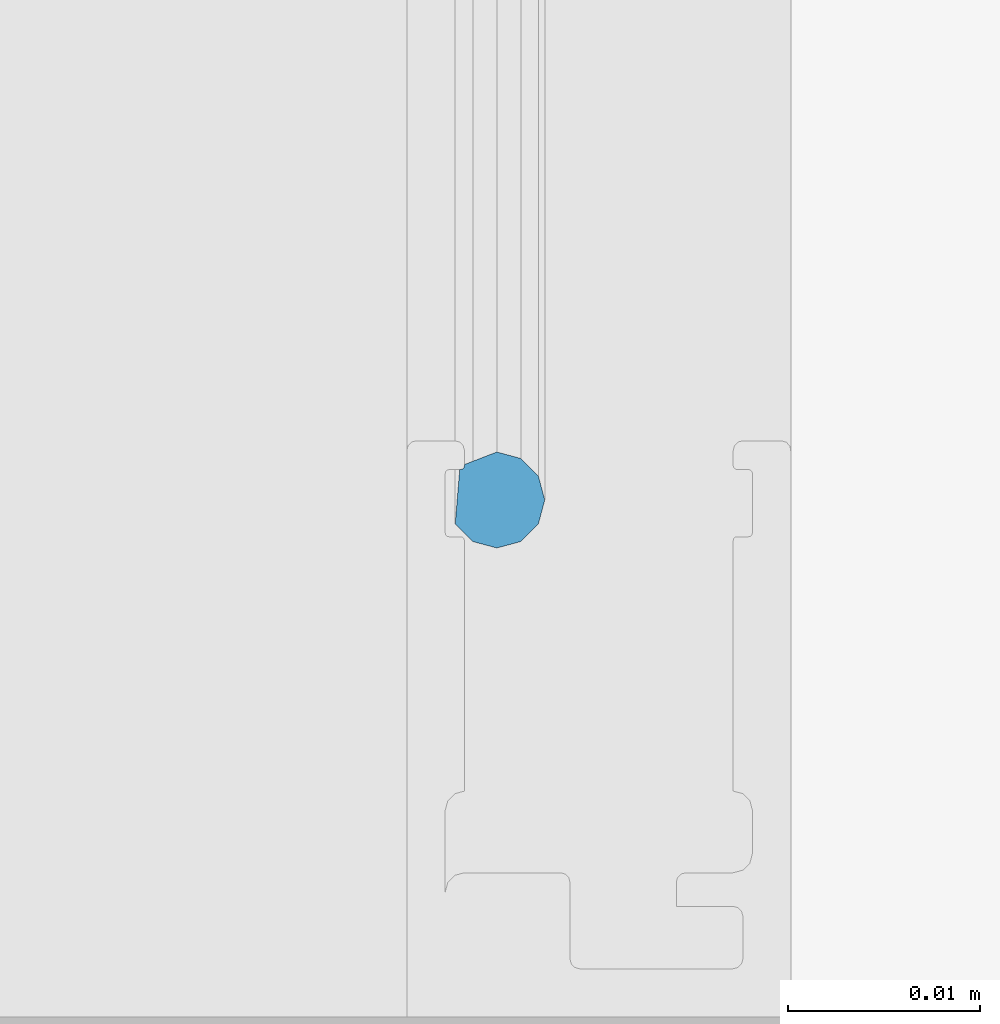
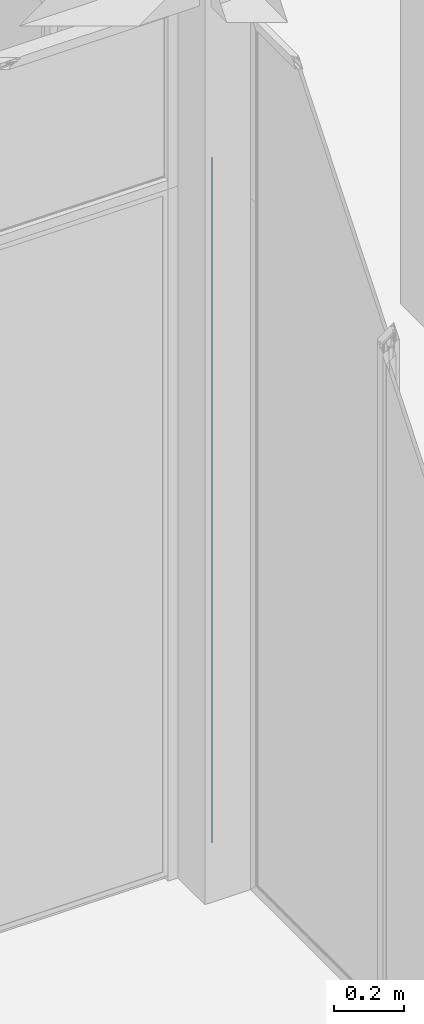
# One storey, part 91 of 387: 1 building element part, 2 elements without a shape of their own.
"""IFC2X3 building model written with IfcOpenShell, lengths in millimetres."""

import ifcopenshell
import ifcopenshell.guid

model = None  # the IFC model being written
_history = None  # IfcOwnerHistory: only IFC2X3 demands one
_inside = {}  # id of a spatial element -> (the spatial element, [elements in it])
_under = {}  # id of a project, library or spatial element -> (it, [spatial elements below it])
_declared = {}  # id of a project -> (the project, [libraries it declares])
_typed = {}  # id of a type object -> (the type object, [elements of that type])
_made_of = {}  # id of a material, layer set ... -> (it, [elements and type objects made of it])


def new_model(schema):
    """Start an empty IFC model of exactly this schema.

    Asked for "IFC4X3", IfcOpenShell would pick the latest addendum, in which some entities
    have other attributes; the version numbers below select the first issue.
    IFC2X3 requires an IfcOwnerHistory on every rooted entity: one is made here for all.
    """
    global model, _history
    if schema == "IFC4X3":
        model = ifcopenshell.file(schema_version=(4, 3, 0, 0))
    else:
        model = ifcopenshell.file(schema=schema)
    _inside.clear()
    _under.clear()
    _declared.clear()
    _typed.clear()
    _made_of.clear()
    _history = None
    if model.schema == "IFC2X3":
        org = make("IfcOrganization", Name="unknown")
        user = make(
            "IfcPersonAndOrganization",
            ThePerson=make("IfcPerson", FamilyName="unknown"),
            TheOrganization=org,
        )
        app = make(
            "IfcApplication",
            ApplicationDeveloper=org,
            Version="unknown",
            ApplicationFullName="unknown",
            ApplicationIdentifier="unknown",
        )
        _history = make(
            "IfcOwnerHistory",
            OwningUser=user,
            OwningApplication=app,
            ChangeAction="ADDED",
            CreationDate=0,
        )
    return model


def make(cls, **values):
    """One entity of the class cls with the attributes given. An attribute that is None is left unset."""
    return model.create_entity(
        cls, **{name: value for name, value in values.items() if value is not None}
    )


def entity(cls, *values):
    """Any entity or typed value of the class cls, its attributes in the order of the schema. None: left unset."""
    e = model.create_entity(cls)
    for i, value in enumerate(values):
        if value is not None:
            e[i] = value
    return e


def rooted(cls, **values):
    """An entity with a GlobalId (a new one), such as an element, a storey or a relation."""
    return make(cls, GlobalId=ifcopenshell.guid.new(), OwnerHistory=_history, **values)


def si_unit(unit_type, name, prefix=None):
    """IfcSIUnit, for example si_unit("LENGTHUNIT", "METRE", prefix="MILLI")."""
    return make("IfcSIUnit", UnitType=unit_type, Prefix=prefix, Name=name)


def converted_unit(unit_type, name, factor, base, dimensions=None, offset=None):
    """IfcConversionBasedUnit, such as the inch: factor (a typed value) times the base unit."""
    return make(
        "IfcConversionBasedUnit"
        if offset is None
        else "IfcConversionBasedUnitWithOffset",
        ConversionOffset=offset,
        Dimensions=None
        if dimensions is None
        else entity("IfcDimensionalExponents", *dimensions),
        UnitType=unit_type,
        Name=name,
        ConversionFactor=make(
            "IfcMeasureWithUnit", ValueComponent=factor, UnitComponent=base
        ),
    )


def derived_unit(unit_type, elements):
    """IfcDerivedUnit: a product of units, each with its exponent."""
    return make(
        "IfcDerivedUnit",
        Elements=[
            make("IfcDerivedUnitElement", Unit=unit, Exponent=power)
            for unit, power in elements
        ],
        UnitType=unit_type,
    )


def money_unit(currency):
    """IfcMonetaryUnit."""
    return make("IfcMonetaryUnit", Currency=currency)


def assignment(units):
    """IfcUnitAssignment: the units of a project."""
    return None if units is None else make("IfcUnitAssignment", Units=units)


def point(xyz):
    """IfcCartesianPoint."""
    return None if xyz is None else make("IfcCartesianPoint", Coordinates=xyz)


def direction(xyz):
    """IfcDirection."""
    return None if xyz is None else make("IfcDirection", DirectionRatios=xyz)


def frame(location, z_axis=None, x_axis=None):
    """IfcAxis2Placement3D, a coordinate frame: its origin and axes. An axis left out is left unset."""
    return make(
        "IfcAxis2Placement3D",
        Location=point(location),
        Axis=direction(z_axis),
        RefDirection=direction(x_axis),
    )


def origin_with_axes():
    """The frame at (0, 0, 0) with the z axis (0, 0, 1) and the x axis (1, 0, 0) written out."""
    return frame((0.0, 0.0, 0.0), z_axis=(0.0, 0.0, 1.0), x_axis=(1.0, 0.0, 0.0))


def place(relative_to, where):
    """IfcLocalPlacement: puts the frame where relative to a parent placement (None: the world)."""
    return make(
        "IfcLocalPlacement", PlacementRelTo=relative_to, RelativePlacement=where
    )


def context(
    kind, dimensions, precision=None, world=None, true_north=None, identifier=None
):
    """IfcGeometricRepresentationContext, for example the 3D "Model" context."""
    return make(
        "IfcGeometricRepresentationContext",
        ContextIdentifier=identifier,
        ContextType=kind,
        CoordinateSpaceDimension=dimensions,
        Precision=precision,
        WorldCoordinateSystem=world,
        TrueNorth=true_north,
    )


def subcontext(parent, identifier, kind, view, scale=None):
    """IfcGeometricRepresentationSubContext, for example "Body" below "Model"."""
    return make(
        "IfcGeometricRepresentationSubContext",
        ContextIdentifier=identifier,
        ContextType=kind,
        ParentContext=parent,
        TargetScale=scale,
        TargetView=view,
    )


def project(units=None, contexts=None):
    """IfcProject with its units and contexts."""
    return rooted(
        "IfcProject",
        Name="project",
        RepresentationContexts=contexts,
        UnitsInContext=assignment(units),
    )


def spatial(cls, under=None, at=None, **own):
    """A site, building, storey or space (cls), placed at a placement, below another one or the project."""
    s = rooted(cls, ObjectPlacement=at, **own)
    if under is not None:
        _under.setdefault(under.id(), (under, []))[1].append(s)
    return s


def faces_of(points, faces, orient=None, outer=None):
    """IfcFace entities. A face is a list of loops; a loop is a list of indices into points, from 0.

    orient and outer hold one flag for each loop. By default every Orientation is true, the
    first loop of a face is its IfcFaceOuterBound and the others are IfcFaceBound.
    """
    made = []
    for i, loops in enumerate(faces):
        bounds = []
        for j, loop in enumerate(loops):
            is_outer = j == 0 if outer is None else outer[i][j]
            bounds.append(
                make(
                    "IfcFaceOuterBound" if is_outer else "IfcFaceBound",
                    Bound=make("IfcPolyLoop", Polygon=[points[k] for k in loop]),
                    Orientation=True if orient is None else orient[i][j],
                )
            )
        made.append(make("IfcFace", Bounds=bounds))
    return made


def faceted_brep(points, faces, orient=None, outer=None, voids=None):
    """IfcFacetedBrep: a solid bounded by flat faces; with voids (closed shells), ...WithVoids."""
    shared = [point(p) for p in points]
    hull = make("IfcClosedShell", CfsFaces=faces_of(shared, faces, orient, outer))
    if voids is None:
        return make("IfcFacetedBrep", Outer=hull)
    return make(
        "IfcFacetedBrepWithVoids",
        Outer=hull,
        Voids=[
            make(cls, CfsFaces=faces_of(shared, fs, o, b)) for cls, fs, o, b in voids
        ],
    )


def shape(context_of_items, identifier, shape_type, items):
    """IfcShapeRepresentation: the items that make up one representation, for example the "Body"."""
    return make(
        "IfcShapeRepresentation",
        ContextOfItems=context_of_items,
        RepresentationIdentifier=identifier,
        RepresentationType=shape_type,
        Items=items,
    )


def source(mapping_origin, context_of_items, identifier, shape_type, items):
    """IfcRepresentationMap: a shape defined once, which mapped items show again and again."""
    return make(
        "IfcRepresentationMap",
        MappingOrigin=mapping_origin,
        MappedRepresentation=shape(context_of_items, identifier, shape_type, items),
    )


def transform(
    local_origin,
    x_axis=None,
    y_axis=None,
    z_axis=None,
    scale=None,
    scale2=None,
    scale3=None,
    uniform=True,
):
    """IfcCartesianTransformationOperator3D, or its non-uniform kind. x_axis, y_axis, z_axis: its Axis1, 2, 3."""
    if uniform:
        return make(
            "IfcCartesianTransformationOperator3D",
            Axis1=direction(x_axis),
            Axis2=direction(y_axis),
            LocalOrigin=point(local_origin),
            Scale=scale,
            Axis3=direction(z_axis),
        )
    return make(
        "IfcCartesianTransformationOperator3DnonUniform",
        Axis1=direction(x_axis),
        Axis2=direction(y_axis),
        LocalOrigin=point(local_origin),
        Scale=scale,
        Axis3=direction(z_axis),
        Scale2=scale2,
        Scale3=scale3,
    )


def mapped(mapping_source, mapping_target):
    """IfcMappedItem: shows the shape of a source again, moved by a transform."""
    return make(
        "IfcMappedItem", MappingSource=mapping_source, MappingTarget=mapping_target
    )


def material(Name=None, Category=None):
    """IfcMaterial."""
    return make("IfcMaterial", Name=Name, Category=Category)


def made_of(thing, what):
    """Note that an element or type object is made of a material, layer set ...; save() writes the relation."""
    if what is not None:
        _made_of.setdefault(what.id(), (what, []))[1].append(thing)
    return thing


def type_object(cls, material=None, **own):
    """A type object (cls), such as IfcWallType, which elements share."""
    return made_of(rooted(cls, **own), material)


def element(
    cls,
    number,
    at=None,
    inside=None,
    cuts=None,
    type_object=None,
    material=None,
    context=None,
    identifier="Body",
    shape_type=None,
    held_by="IfcProductDefinitionShape",
    body=None,
    shapes=None,
    **own,
):
    """One element of the class cls, such as IfcWall. Its Tag is "e" and its number.

    at: its placement. inside: the storey or other place that contains it. cuts: it is an
    opening in that element (IfcRelVoidsElement). A single representation is given by context,
    identifier, shape_type and body (its items); several are given by shapes. held_by: the class
    of the entity that holds the representations. save() writes the other relations.
    """
    e = rooted(cls, Tag="e%d" % number, ObjectPlacement=at, **own)
    if body is not None:
        shapes = [shape(context, identifier, shape_type, body)]
    if shapes is not None:
        e.Representation = make(held_by, Representations=shapes)
    if inside is not None:
        _inside.setdefault(inside.id(), (inside, []))[1].append(e)
    if cuts is not None:
        rooted(
            "IfcRelVoidsElement", RelatingBuildingElement=cuts, RelatedOpeningElement=e
        )
    if type_object is not None:
        _typed.setdefault(type_object.id(), (type_object, []))[1].append(e)
    return made_of(e, material)


def aggregate(whole, parts):
    """IfcRelAggregates: a whole, such as a stair, and the parts it consists of."""
    return rooted("IfcRelAggregates", RelatingObject=whole, RelatedObjects=parts)


def save(model, path):
    """Write the relations noted so far, then the file.

    IfcRelAggregates (storeys below a building ...), IfcRelContainedInSpatialStructure (elements
    in a storey), IfcRelDefinesByType, IfcRelAssociatesMaterial and IfcRelDeclares: one each for
    every whole, place, type object, material and project.
    """
    for whole, parts in _under.values():
        aggregate(whole, parts)
    for where, things in _inside.values():
        rooted(
            "IfcRelContainedInSpatialStructure",
            RelatedElements=things,
            RelatingStructure=where,
        )
    for kind, things in _typed.values():
        rooted("IfcRelDefinesByType", RelatedObjects=things, RelatingType=kind)
    for what, things in _made_of.values():
        rooted("IfcRelAssociatesMaterial", RelatedObjects=things, RelatingMaterial=what)
    for by, libraries in _declared.values():
        rooted("IfcRelDeclares", RelatingContext=by, RelatedDefinitions=libraries)
    model.write(path)


model = new_model("IFC2X3")

# Units and contexts
model_context = context("Model", 3, precision=0.01, world=origin_with_axes(), true_north=direction((0.0, 1.0)))
body_context = subcontext(model_context, "Body", "Model", "MODEL_VIEW")
ifc_project = project(units=[si_unit("LENGTHUNIT", "METRE", prefix="MILLI"), si_unit("AREAUNIT", "SQUARE_METRE"), si_unit("VOLUMEUNIT", "CUBIC_METRE"), converted_unit("PLANEANGLEUNIT", "DEGREE", entity("IfcPlaneAngleMeasure", 0.0174532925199), si_unit("PLANEANGLEUNIT", "RADIAN"), dimensions=[0, 0, 0, 0, 0, 0, 0]), si_unit("SOLIDANGLEUNIT", "STERADIAN"), money_unit("EUR"), converted_unit("TIMEUNIT", "Year", entity("IfcTimeMeasure", 31556926.0), si_unit("TIMEUNIT", "SECOND"), dimensions=[0, 0, 1, 0, 0, 0, 0]), si_unit("MASSUNIT", "GRAM", prefix="KILO"), si_unit("THERMODYNAMICTEMPERATUREUNIT", "DEGREE_CELSIUS"), si_unit("LUMINOUSINTENSITYUNIT", "LUMEN"), si_unit("ENERGYUNIT", "JOULE", prefix="MEGA"), derived_unit("THERMALCONDUCTANCEUNIT", [(si_unit("POWERUNIT", "WATT"), 1), (si_unit("LENGTHUNIT", "METRE"), -1), (si_unit("THERMODYNAMICTEMPERATUREUNIT", "KELVIN"), -1)]), derived_unit("SPECIFICHEATCAPACITYUNIT", [(si_unit("ENERGYUNIT", "JOULE"), 1), (si_unit("MASSUNIT", "GRAM", prefix="KILO"), -1), (si_unit("THERMODYNAMICTEMPERATUREUNIT", "KELVIN"), -1)]), derived_unit("MASSDENSITYUNIT", [(si_unit("MASSUNIT", "GRAM", prefix="KILO"), 1), (si_unit("VOLUMEUNIT", "CUBIC_METRE"), -1)])], contexts=[model_context])

# Site, building, storey
site_placement = place(None, origin_with_axes())
site = spatial("IfcSite", under=ifc_project, at=site_placement, Name="Puškini 31, Narva", CompositionType="ELEMENT")
building_placement = place(site_placement, origin_with_axes())
building = spatial("IfcBuilding", under=site, at=building_placement, Name="Narva Riigigümnaasium", CompositionType="ELEMENT")
storey_placement = place(building_placement, frame((0.0, 0.0, 2640.0), z_axis=(0.0, 0.0, 1.0), x_axis=(1.0, 0.0, 0.0)))
storey = spatial("IfcBuildingStorey", under=building, at=storey_placement, Name="2.korrus +2.64", CompositionType="ELEMENT", Elevation=2640.0)

# Curtain wall, member, building element part
curtain_wall_type = type_object("IfcCurtainWallType", Name="Curtain Wall Type", PredefinedType="NOTDEFINED")
curtain_wall_placement = place(storey_placement, frame((28390.0000001, 183059.973479, -0.000112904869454), z_axis=(0.0, 0.0, 1.0), x_axis=(1.0, 0.0, 0.0)))
curtain_wall = element("IfcCurtainWall", 1, at=curtain_wall_placement, inside=storey, type_object=curtain_wall_type, Name="G-SKLF-19")
member_type = type_object("IfcMemberType", Name="30 x 10", PredefinedType="MULLION")
member_placement = place(curtain_wall_placement, frame((0.0, -1360.00012964, 0.0), z_axis=(0.0, 3.91155906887e-08, 1.0), x_axis=(0.0, 1.0, -3.91155906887e-08)))
member = element("IfcMember", 2, at=member_placement, type_object=member_type, Name="G-SKLF-54-raam", ObjectType="MULLION")
aggregate(curtain_wall, [member])
ifc_material = material(Name="Membraan - Veekindel")
shared_shape = source(origin_with_axes(), body_context, "Body", "Brep", [
    faceted_brep([(25.6641727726, 7.48000965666, 25.6641727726), (25.6641727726, 7.48000965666, 2400.00000922), (28.5, 7.24760028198, 2400.00000922), (28.5, 7.24760028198, 28.5), (24.7491092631, 6.56494614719, 24.7491092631), (24.7491092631, 6.56494614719, 2400.00000922), (24.4141727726, 5.31494614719, 2400.00000922), (24.7491092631, 4.06494614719, 2400.00000922), (25.6641727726, 3.14988263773, 2400.00000922), (26.9141727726, 2.81494614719, 2400.00000922), (28.1641727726, 3.14988263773, 2400.00000922), (29.079236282, 4.06494614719, 2400.00000922), (29.4141727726, 5.31494614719, 2400.00000922), (28.7609519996, 6.99999999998, 2400.00000922), (28.7, 6.99999999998, 2400.00000922), (28.6, 7.02679491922, 2400.00000922), (28.5267949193, 7.09999999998, 2400.00000922), (28.5, 7.19999999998, 2400.00000922), (28.5, 7.19999999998, 28.5), (28.5267949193, 7.09999999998, 28.5267949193), (28.6, 7.02679491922, 28.6), (28.7, 6.99999999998, 28.7), (28.7609519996, 6.99999999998, 28.7609519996), (29.4141727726, 5.31494614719, 29.4141727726), (29.079236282, 4.06494614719, 29.079236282), (28.1641727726, 3.14988263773, 28.1641727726), (26.9141727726, 2.81494614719, 26.9141727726), (25.6641727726, 3.14988263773, 25.6641727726), (24.7491092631, 4.06494614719, 24.7491092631), (24.4141727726, 5.31494614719, 24.4141727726)], [[[0, 1, 2, 3]], [[4, 5, 1, 0]], [[2, 1, 5, 6, 7, 8, 9, 10, 11, 12, 13, 14, 15, 16, 17]], [[3, 2, 17, 18]], [[3, 18, 19, 20, 21, 22, 23, 24, 25, 26, 27, 28, 29, 4, 0]], [[29, 6, 5, 4]], [[28, 7, 6, 29]], [[27, 8, 7, 28]], [[26, 9, 8, 27]], [[25, 10, 9, 26]], [[24, 11, 10, 25]], [[23, 12, 11, 24]], [[22, 13, 12, 23]], [[21, 14, 13, 22]], [[20, 15, 14, 21]], [[19, 16, 15, 20]], [[18, 17, 16, 19]]]),
])
building_element_part_placement = place(member_placement, origin_with_axes())
building_element_part = element("IfcBuildingElementPart", 3, at=building_element_part_placement, material=ifc_material, Name="Membraan - Veekindel", context=body_context, shape_type="MappedRepresentation", body=[
    mapped(shared_shape, transform((0.0, 0.0, 0.0))),
])
aggregate(member, [building_element_part])

save(model, "model.ifc")
